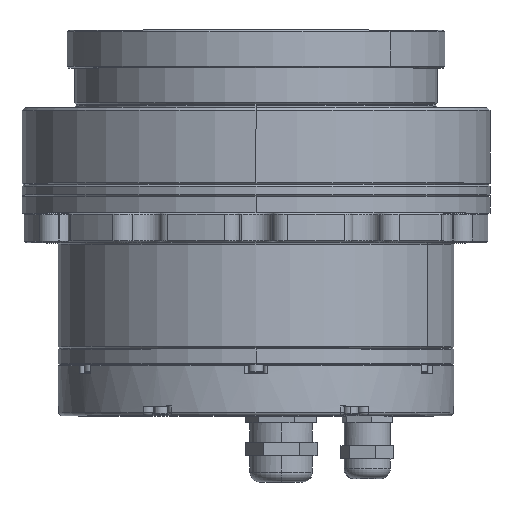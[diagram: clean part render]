
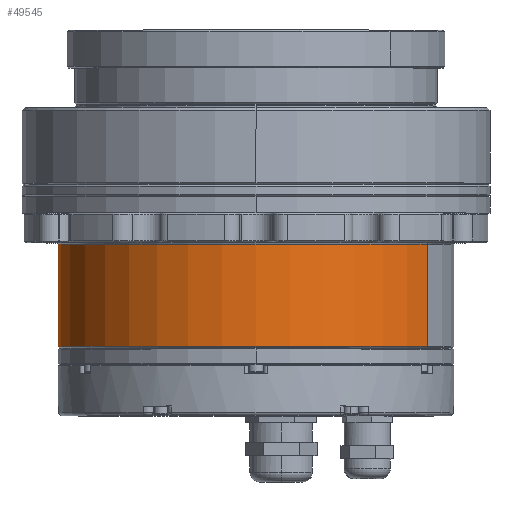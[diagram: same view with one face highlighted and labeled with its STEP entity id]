
A CAD part, top view. The second image highlights one B-rep face of the part: STEP entity #49545.
In plain terms, the highlighted cylindrical face has radius 60 mm (diameter 120 mm), a partial arc.
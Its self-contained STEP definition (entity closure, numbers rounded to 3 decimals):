
#1493 = CARTESIAN_POINT ( 'NONE',  ( 0., 40.5, -60. ) ) ;
#7169 = CARTESIAN_POINT ( 'NONE',  ( 0., 40.5, 60. ) ) ;
#9041 = CARTESIAN_POINT ( 'NONE',  ( 0., 9.5, 0. ) ) ;
#10711 = FACE_OUTER_BOUND ( 'NONE', #73776, .T. ) ;
#10833 = LINE ( 'NONE', #93732, #28242 ) ;
#13113 = CARTESIAN_POINT ( 'NONE',  ( 0., 0., 60. ) ) ;
#14503 = CIRCLE ( 'NONE', #64923, 60. ) ;
#15642 = DIRECTION ( 'NONE',  ( 0., 0., -1. ) ) ;
#16804 = CARTESIAN_POINT ( 'NONE',  ( 0., 0., 0. ) ) ;
#25352 = EDGE_CURVE ( 'NONE', #83800, #55728, #64860, .T. ) ;
#25997 = DIRECTION ( 'NONE',  ( 0., 1., 0. ) ) ;
#28242 = VECTOR ( 'NONE', #34391, 1000. ) ;
#29501 = DIRECTION ( 'NONE',  ( 0., 1., 0. ) ) ;
#30024 = ORIENTED_EDGE ( 'NONE', *, *, #63738, .T. ) ;
#34391 = DIRECTION ( 'NONE',  ( 0., 1., 0. ) ) ;
#36843 = VERTEX_POINT ( 'NONE', #1493 ) ;
#41927 = DIRECTION ( 'NONE',  ( 0., 0., 1. ) ) ;
#43921 = VERTEX_POINT ( 'NONE', #69512 ) ;
#44838 = AXIS2_PLACEMENT_3D ( 'NONE', #16804, #85456, #41927 ) ;
#46246 = EDGE_CURVE ( 'NONE', #55728, #36843, #14503, .T. ) ;
#48649 = CARTESIAN_POINT ( 'NONE',  ( 0., 40.5, 0. ) ) ;
#49545 = ADVANCED_FACE ( 'NONE', ( #10711 ), #101830, .T. ) ;
#52126 = CARTESIAN_POINT ( 'NONE',  ( 0., 9.5, 60. ) ) ;
#53782 = ORIENTED_EDGE ( 'NONE', *, *, #87988, .F. ) ;
#55728 = VERTEX_POINT ( 'NONE', #7169 ) ;
#58622 = ORIENTED_EDGE ( 'NONE', *, *, #25352, .T. ) ;
#63738 = EDGE_CURVE ( 'NONE', #43921, #83800, #101153, .T. ) ;
#64860 = LINE ( 'NONE', #13113, #77792 ) ;
#64923 = AXIS2_PLACEMENT_3D ( 'NONE', #48649, #73124, #72598 ) ;
#66466 = ORIENTED_EDGE ( 'NONE', *, *, #46246, .T. ) ;
#69512 = CARTESIAN_POINT ( 'NONE',  ( 0., 9.5, -60. ) ) ;
#72598 = DIRECTION ( 'NONE',  ( 0., 0., -1. ) ) ;
#73124 = DIRECTION ( 'NONE',  ( 0., -1., 0. ) ) ;
#73776 = EDGE_LOOP ( 'NONE', ( #53782, #30024, #58622, #66466 ) ) ;
#77792 = VECTOR ( 'NONE', #29501, 1000. ) ;
#83800 = VERTEX_POINT ( 'NONE', #52126 ) ;
#85456 = DIRECTION ( 'NONE',  ( 0., 1., 0. ) ) ;
#87988 = EDGE_CURVE ( 'NONE', #43921, #36843, #10833, .T. ) ;
#93732 = CARTESIAN_POINT ( 'NONE',  ( 0., 0., -60. ) ) ;
#101153 = CIRCLE ( 'NONE', #104643, 60. ) ;
#101830 = CYLINDRICAL_SURFACE ( 'NONE', #44838, 60. ) ;
#104643 = AXIS2_PLACEMENT_3D ( 'NONE', #9041, #25997, #15642 ) ;
